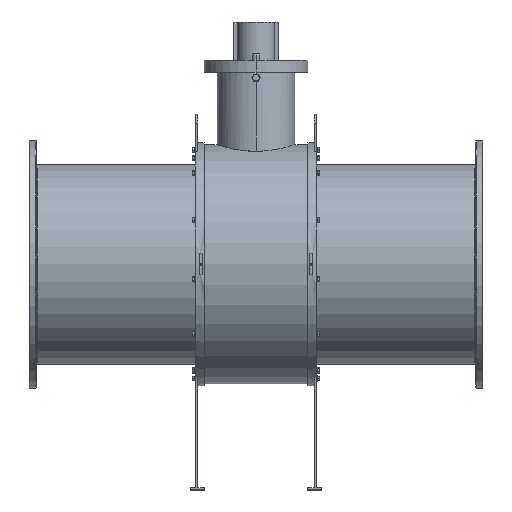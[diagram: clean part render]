
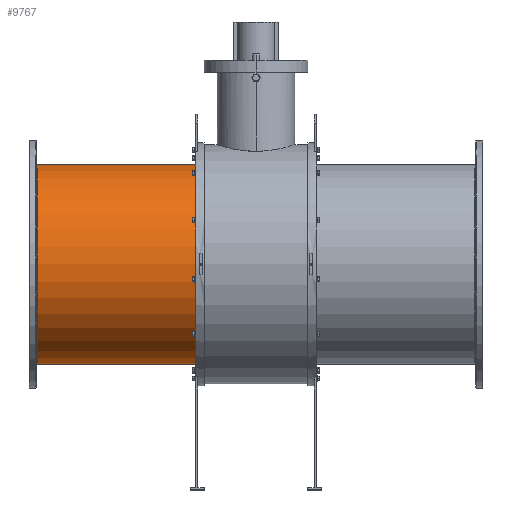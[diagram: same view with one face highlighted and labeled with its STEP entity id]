
A CAD part, top view. The second image highlights one B-rep face of the part: STEP entity #9767.
In plain terms, the highlighted cylindrical face has radius 458 mm (diameter 916 mm), a partial arc.
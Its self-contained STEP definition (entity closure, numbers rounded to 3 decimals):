
#22 = DIRECTION ( 'NONE',  ( 0., -1., 0. ) ) ;
#48 = LINE ( 'NONE', #1026, #219 ) ;
#219 = VECTOR ( 'NONE', #4371, 1000. ) ;
#504 = ORIENTED_EDGE ( 'NONE', *, *, #10827, .T. ) ;
#895 = CARTESIAN_POINT ( 'NONE',  ( -1004.5, -458., 0. ) ) ;
#958 = CARTESIAN_POINT ( 'NONE',  ( -1041.5, 0., 0. ) ) ;
#1026 = CARTESIAN_POINT ( 'NONE',  ( -1041.5, 458., 0. ) ) ;
#1322 = LINE ( 'NONE', #14075, #6422 ) ;
#1347 = DIRECTION ( 'NONE',  ( 0., 0., 1. ) ) ;
#1585 = CIRCLE ( 'NONE', #13216, 458. ) ;
#1757 = AXIS2_PLACEMENT_3D ( 'NONE', #958, #11811, #7578 ) ;
#2188 = DIRECTION ( 'NONE',  ( -1., 0., 0. ) ) ;
#2421 = CARTESIAN_POINT ( 'NONE',  ( -277.5, 0., 0. ) ) ;
#3064 = EDGE_CURVE ( 'NONE', #9665, #9599, #48, .T. ) ;
#4005 = EDGE_CURVE ( 'NONE', #11948, #6911, #1322, .T. ) ;
#4332 = CARTESIAN_POINT ( 'NONE',  ( -277.5, -458., 0. ) ) ;
#4371 = DIRECTION ( 'NONE',  ( -1., 0., 0. ) ) ;
#4546 = DIRECTION ( 'NONE',  ( 1., 0., 0. ) ) ;
#5544 = CARTESIAN_POINT ( 'NONE',  ( -1004.5, 0., 0. ) ) ;
#6422 = VECTOR ( 'NONE', #2188, 1000. ) ;
#6446 = CIRCLE ( 'NONE', #11727, 458. ) ;
#6639 = ORIENTED_EDGE ( 'NONE', *, *, #13437, .T. ) ;
#6911 = VERTEX_POINT ( 'NONE', #895 ) ;
#7158 = CARTESIAN_POINT ( 'NONE',  ( -277.5, 458., 0. ) ) ;
#7435 = CYLINDRICAL_SURFACE ( 'NONE', #1757, 458. ) ;
#7578 = DIRECTION ( 'NONE',  ( 0., -1., 0. ) ) ;
#7691 = ORIENTED_EDGE ( 'NONE', *, *, #3064, .T. ) ;
#8456 = FACE_OUTER_BOUND ( 'NONE', #11088, .T. ) ;
#9599 = VERTEX_POINT ( 'NONE', #13669 ) ;
#9665 = VERTEX_POINT ( 'NONE', #7158 ) ;
#9767 = ADVANCED_FACE ( 'NONE', ( #8456 ), #7435, .T. ) ;
#10827 = EDGE_CURVE ( 'NONE', #9599, #6911, #6446, .T. ) ;
#11088 = EDGE_LOOP ( 'NONE', ( #6639, #7691, #504, #11804 ) ) ;
#11138 = DIRECTION ( 'NONE',  ( -1., 0., 0. ) ) ;
#11727 = AXIS2_PLACEMENT_3D ( 'NONE', #5544, #4546, #22 ) ;
#11804 = ORIENTED_EDGE ( 'NONE', *, *, #4005, .F. ) ;
#11811 = DIRECTION ( 'NONE',  ( -1., 0., 0. ) ) ;
#11948 = VERTEX_POINT ( 'NONE', #4332 ) ;
#13216 = AXIS2_PLACEMENT_3D ( 'NONE', #2421, #11138, #1347 ) ;
#13437 = EDGE_CURVE ( 'NONE', #11948, #9665, #1585, .T. ) ;
#13669 = CARTESIAN_POINT ( 'NONE',  ( -1004.5, 458., 0. ) ) ;
#14075 = CARTESIAN_POINT ( 'NONE',  ( -1041.5, -458., 0. ) ) ;
